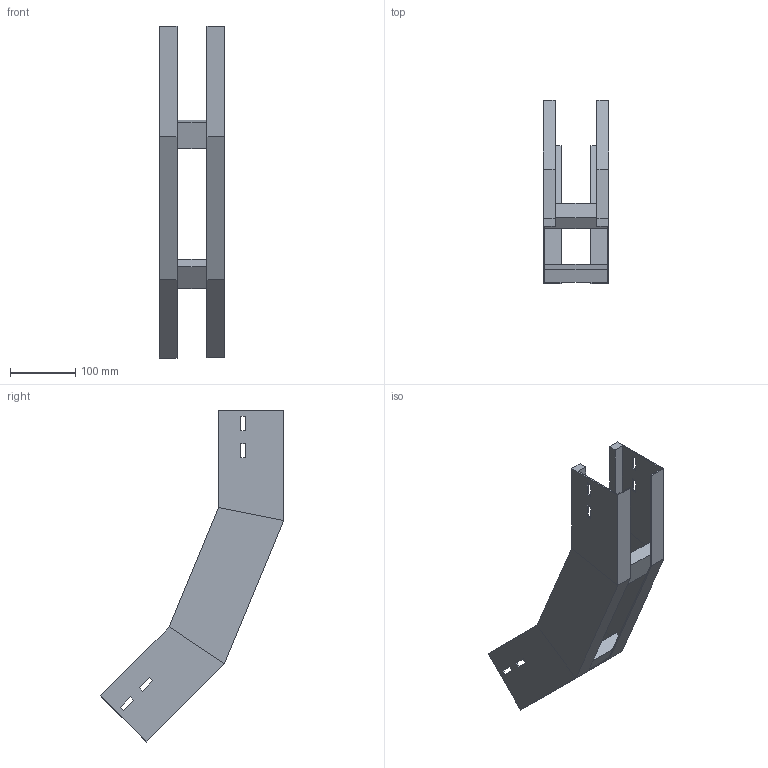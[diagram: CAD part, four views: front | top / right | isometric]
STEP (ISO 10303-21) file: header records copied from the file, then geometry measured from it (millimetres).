
FILE_DESCRIPTION (( 'STEP AP214' ), '1' );
FILE_NAME ('A2X31B5D100XX.step', '2025-03-20T10:04:20', ( '' ), ( '' ), 'SwSTEP 2.0', 'SolidWorks 2023', '' );
FILE_SCHEMA (( 'AUTOMOTIVE_DESIGN' ));
Length unit declared in the file: millimetre
Products named in the file (3): A2X31B5D100XX; TRAVERSINO_100; LONGH.SALITA_45°_H100_R500
Assembly tree (4 placements, depth 2):
  A2X31B5D100XX
    LONGH.SALITA_45°_H100_R500  x2
    TRAVERSINO_100  x2
Bounding box: 100 x 281.75 x 509.5 mm (x, y, z)
Volume: 618676.9 mm3; surface area: 335822.2 mm2
Topology: 4 solids, 4 shells, 96 faces, 232 edges, 144 vertices
Faces by surface type: plane 96
Entity records: 1472 total; most frequent: CARTESIAN_POINT 243, ORIENTED_EDGE 232, DIRECTION 226, VECTOR 116, LINE 116, EDGE_CURVE 116, VERTEX_POINT 72, EDGE_LOOP 56
